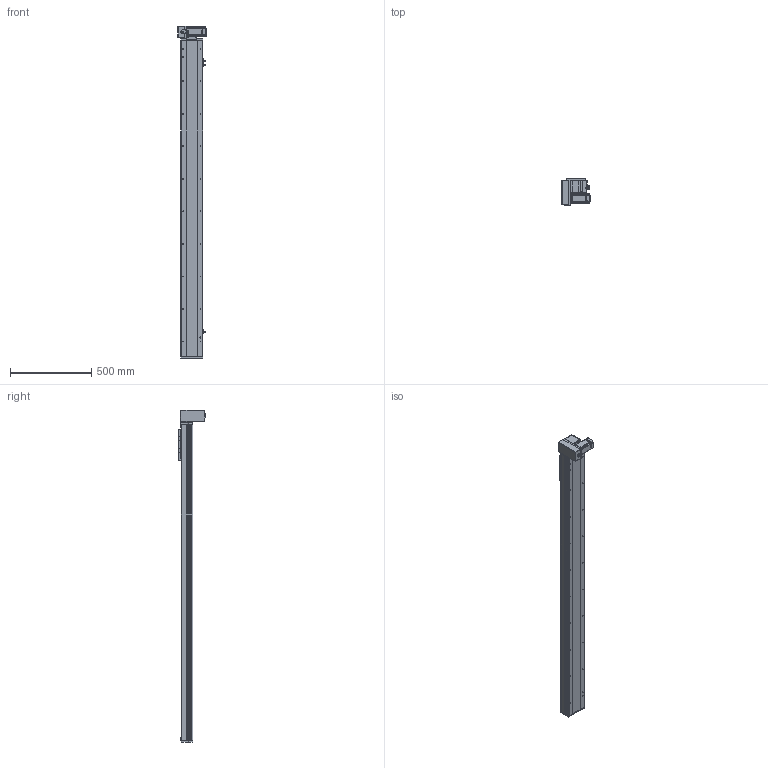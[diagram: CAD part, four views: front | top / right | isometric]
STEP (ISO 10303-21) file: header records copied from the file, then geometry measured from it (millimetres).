
FILE_DESCRIPTION (( 'STEP AP214' ), '1' );
FILE_NAME ('TPE14-L40-1650-LD-T40-C4.STEP', '2023-04-12T11:21:27', ( '' ), ( '' ), 'SwSTEP 2.0', 'SolidWorks 2020', '' );
FILE_SCHEMA (( 'AUTOMOTIVE_DESIGN' ));
Length unit declared in the file: millimetre
Products named in the file (10): 葩璃 TPE14-L-001 菁釱MZ-135-01^TPE14-L40-LD-T40-C4; 葩璃 TPE14 賑雄殤^TPE14-L40-LD-T40-C4; 葩璃 TPT14-L-009 萇儂啣^TPE14-L40-LD-T40-C4_400W; 葩璃 侂狟400W^TPE14-L40-LD-T40-C4; 葩璃 TPE14-L-007 々湍釱MZ-169x88^TPE14-L40-LD-T40-C4_YCB14; hexagon head bolts-full thread gb_GB_FASTENER_BOLT_STBAB A M5X16-N; 葩璃 TPE14-L-002 耜裔ZTMZ-135-04^TPE14-L40-LD-T40-C4; 葩璃 pm-t65-672^TPE14-L40-LD-T40-C4; TPE14-L40-1650-LD-T40-C4; 葩璃 詩湍75^TPE14-L40-LD-T40-C4
Assembly tree (12 placements, depth 2):
  TPE14-L40-1650-LD-T40-C4
    葩璃 TPE14-L-001 菁釱MZ-135-01^TPE14-L40-LD-T40-C4
    葩璃 TPE14-L-002 耜裔ZTMZ-135-04^TPE14-L40-LD-T40-C4  x2
    葩璃 詩湍75^TPE14-L40-LD-T40-C4
    葩璃 TPE14-L-007 々湍釱MZ-169x88^TPE14-L40-LD-T40-C4_YCB14
    葩璃 TPT14-L-009 萇儂啣^TPE14-L40-LD-T40-C4_400W
    葩璃 TPE14 賑雄殤^TPE14-L40-LD-T40-C4
    葩璃 pm-t65-672^TPE14-L40-LD-T40-C4  x3
    葩璃 侂狟400W^TPE14-L40-LD-T40-C4
    hexagon head bolts-full thread gb_GB_FASTENER_BOLT_STBAB A M5X16-N
Bounding box: 172.5 x 171.45 x 2040.5 mm (x, y, z)
Volume: 10271928.5 mm3; surface area: 1967887.2 mm2
Topology: 23 solids, 23 shells, 1436 faces, 3727 edges, 2360 vertices
Faces by surface type: plane 823, cylinder 433, cone 146, bspline 34
Entity records: 38351 total; most frequent: CARTESIAN_POINT 7456, DIRECTION 6128, ORIENTED_EDGE 5922, EDGE_CURVE 2961, AXIS2_PLACEMENT_3D 2086, VECTOR 1956, LINE 1956, VERTEX_POINT 1908
